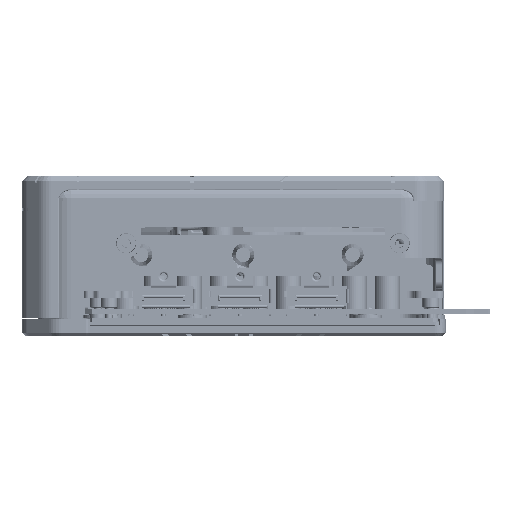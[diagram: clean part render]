
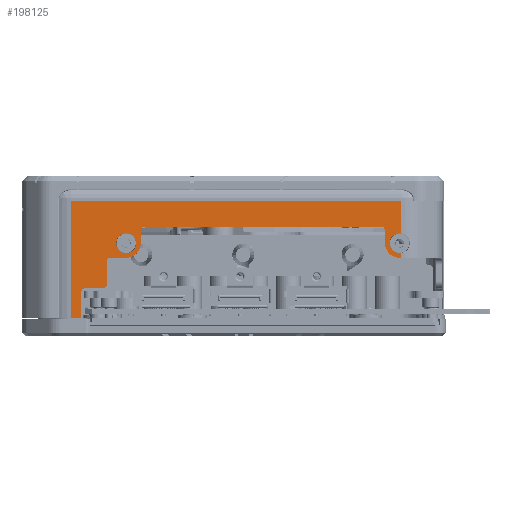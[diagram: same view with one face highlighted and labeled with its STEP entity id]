
A CAD part, left-side view. The second image highlights one B-rep face of the part: STEP entity #198125.
In plain terms, the highlighted planar face has unit normal (-1, 0, 0) as drawn and (0, -1, 0) by its records, which use the part's own axes.
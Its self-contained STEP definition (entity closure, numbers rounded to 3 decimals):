
#174732=DIRECTION('',(-1.,0.,0.));
#174733=VECTOR('',#174732,2.186);
#174734=CARTESIAN_POINT('',(-43.,-129.,-15.436));
#174735=LINE('',#174734,#174733);
#174736=CARTESIAN_POINT('',(44.85,-129.,
5.064));
#174737=DIRECTION('',(0.,-1.,0.));
#174738=DIRECTION('',(0.122,0.,0.992));
#174739=AXIS2_PLACEMENT_3D('',#174736,#174737,#174738);
#174741=CARTESIAN_POINT('',(44.85,-129.,
5.064));
#174742=DIRECTION('',(0.,-1.,0.));
#174743=DIRECTION('',(-0.122,0.,0.992));
#174744=AXIS2_PLACEMENT_3D('',#174741,#174742,#174743);
#174746=CARTESIAN_POINT('',(44.85,-129.,5.064));
#174747=DIRECTION('',(0.,1.,0.));
#174748=DIRECTION('',(0.,0.,-1.));
#174749=AXIS2_PLACEMENT_3D('',#174746,#174747,#174748);
#174751=CARTESIAN_POINT('',(39.85,-129.,8.564));
#174752=DIRECTION('',(0.,-1.,0.));
#174753=DIRECTION('',(1.,0.,0.));
#174754=AXIS2_PLACEMENT_3D('',#174751,#174752,#174753);
#174756=CARTESIAN_POINT('',(-25.15,-129.,8.564));
#174757=DIRECTION('',(0.,-1.,0.));
#174758=DIRECTION('',(0.,0.,1.));
#174759=AXIS2_PLACEMENT_3D('',#174756,#174757,#174758);
#174761=CARTESIAN_POINT('',(-30.15,-129.,5.064));
#174762=DIRECTION('',(0.,1.,0.));
#174763=DIRECTION('',(1.,0.,0.));
#174764=AXIS2_PLACEMENT_3D('',#174761,#174762,#174763);
#174766=CARTESIAN_POINT('',(-34.5,-129.,0.064));
#174767=DIRECTION('',(0.,-1.,0.));
#174768=DIRECTION('',(0.,0.,1.));
#174769=AXIS2_PLACEMENT_3D('',#174766,#174767,#174768);
#174771=CARTESIAN_POINT('',(-36.5,-129.,-6.336));
#174772=DIRECTION('',(0.,1.,0.));
#174773=DIRECTION('',(1.,0.,0.));
#174774=AXIS2_PLACEMENT_3D('',#174771,#174772,#174773);
#174776=CARTESIAN_POINT('',(-41.5,-129.,-8.336));
#174777=DIRECTION('',(0.,-1.,0.));
#174778=DIRECTION('',(0.,0.,1.));
#174779=AXIS2_PLACEMENT_3D('',#174776,#174777,#174778);
#174781=CARTESIAN_POINT('',(-43.,-129.,-14.936));
#174782=DIRECTION('',(0.,1.,0.));
#174783=DIRECTION('',(1.,0.,0.));
#174784=AXIS2_PLACEMENT_3D('',#174781,#174782,#174783);
#174786=CARTESIAN_POINT('',(-30.15,-129.,5.064));
#174787=DIRECTION('',(0.,-1.,0.));
#174788=DIRECTION('',(-1.,0.,0.));
#174789=AXIS2_PLACEMENT_3D('',#174786,#174787,#174788);
#174791=CARTESIAN_POINT('',(-30.15,-129.,5.064));
#174792=DIRECTION('',(0.,-1.,0.));
#174793=DIRECTION('',(1.,0.,0.));
#174794=AXIS2_PLACEMENT_3D('',#174791,#174792,#174793);
#174800=DIRECTION('',(0.,0.,-1.));
#174801=VECTOR('',#174800,32.);
#174802=CARTESIAN_POINT('',(-45.186,-129.,16.564));
#174803=LINE('',#174802,#174801);
#174863=DIRECTION('',(-1.,0.,0.));
#174864=VECTOR('',#174863,90.373);
#174865=CARTESIAN_POINT('',(45.186,-129.,16.564));
#174866=LINE('',#174865,#174864);
#178167=DIRECTION('',(1.,0.,0.));
#178168=VECTOR('',#178167,0.336);
#178169=CARTESIAN_POINT('',(44.85,-129.,1.064));
#178170=LINE('',#178169,#178168);
#178215=DIRECTION('',(0.,0.,-1.));
#178216=VECTOR('',#178215,3.5);
#178217=CARTESIAN_POINT('',(40.85,-129.,8.564));
#178218=LINE('',#178217,#178216);
#178237=DIRECTION('',(1.,0.,0.));
#178238=VECTOR('',#178237,65.);
#178239=CARTESIAN_POINT('',(-25.15,-129.,9.564));
#178240=LINE('',#178239,#178238);
#178259=DIRECTION('',(0.,0.,1.));
#178260=VECTOR('',#178259,3.5);
#178261=CARTESIAN_POINT('',(-26.15,-129.,5.064));
#178262=LINE('',#178261,#178260);
#178283=DIRECTION('',(1.,0.,0.));
#178284=VECTOR('',#178283,4.35);
#178285=CARTESIAN_POINT('',(-34.5,-129.,1.064));
#178286=LINE('',#178285,#178284);
#178305=DIRECTION('',(0.,0.,1.));
#178306=VECTOR('',#178305,6.4);
#178307=CARTESIAN_POINT('',(-35.5,-129.,-6.336));
#178308=LINE('',#178307,#178306);
#178327=DIRECTION('',(1.,0.,0.));
#178328=VECTOR('',#178327,5.);
#178329=CARTESIAN_POINT('',(-41.5,-129.,-7.336));
#178330=LINE('',#178329,#178328);
#178349=DIRECTION('',(0.,0.,1.));
#178350=VECTOR('',#178349,6.6);
#178351=CARTESIAN_POINT('',(-42.5,-129.,-14.936));
#178352=LINE('',#178351,#178350);
#178384=DIRECTION('',(0.,0.,1.));
#178385=VECTOR('',#178384,8.771);
#178386=CARTESIAN_POINT('',(45.186,-129.,
7.793));
#178387=LINE('',#178386,#178385);
#178392=DIRECTION('',(0.,0.,1.));
#178393=VECTOR('',#178392,1.271);
#178394=CARTESIAN_POINT('',(45.186,-129.,1.064));
#178395=LINE('',#178394,#178393);
#193014=CARTESIAN_POINT('',(45.186,-129.,16.564));
#193015=VERTEX_POINT('',#193014);
#193016=CARTESIAN_POINT('',(-45.186,-129.,16.564));
#193017=VERTEX_POINT('',#193016);
#193040=CARTESIAN_POINT('',(-45.186,-129.,-15.436));
#193041=VERTEX_POINT('',#193040);
#193042=CARTESIAN_POINT('',(-43.,-129.,-15.436));
#193043=VERTEX_POINT('',#193042);
#193131=CARTESIAN_POINT('',(-27.4,-129.,
5.064));
#193132=VERTEX_POINT('',#193131);
#193133=CARTESIAN_POINT('',(-32.9,-129.,
5.064));
#193134=VERTEX_POINT('',#193133);
#193135=CARTESIAN_POINT('',(45.186,-129.,
7.793));
#193136=VERTEX_POINT('',#193135);
#193137=CARTESIAN_POINT('',(44.514,-129.,
7.793));
#193138=VERTEX_POINT('',#193137);
#193139=CARTESIAN_POINT('',(45.186,-129.,
2.335));
#193140=VERTEX_POINT('',#193139);
#193141=CARTESIAN_POINT('',(45.186,-129.,1.064));
#193142=VERTEX_POINT('',#193141);
#193143=CARTESIAN_POINT('',(44.85,-129.,1.064));
#193144=VERTEX_POINT('',#193143);
#193145=CARTESIAN_POINT('',(40.85,-129.,5.064));
#193146=VERTEX_POINT('',#193145);
#193147=CARTESIAN_POINT('',(40.85,-129.,8.564));
#193148=VERTEX_POINT('',#193147);
#193149=CARTESIAN_POINT('',(39.85,-129.,9.564));
#193150=VERTEX_POINT('',#193149);
#193151=CARTESIAN_POINT('',(-25.15,-129.,9.564));
#193152=VERTEX_POINT('',#193151);
#193153=CARTESIAN_POINT('',(-26.15,-129.,8.564));
#193154=VERTEX_POINT('',#193153);
#193155=CARTESIAN_POINT('',(-26.15,-129.,5.064));
#193156=VERTEX_POINT('',#193155);
#193157=CARTESIAN_POINT('',(-30.15,-129.,1.064));
#193158=VERTEX_POINT('',#193157);
#193159=CARTESIAN_POINT('',(-34.5,-129.,1.064));
#193160=VERTEX_POINT('',#193159);
#193161=CARTESIAN_POINT('',(-35.5,-129.,0.064));
#193162=VERTEX_POINT('',#193161);
#193163=CARTESIAN_POINT('',(-35.5,-129.,-6.336));
#193164=VERTEX_POINT('',#193163);
#193165=CARTESIAN_POINT('',(-36.5,-129.,-7.336));
#193166=VERTEX_POINT('',#193165);
#193167=CARTESIAN_POINT('',(-41.5,-129.,-7.336));
#193168=VERTEX_POINT('',#193167);
#193169=CARTESIAN_POINT('',(-42.5,-129.,-8.336));
#193170=VERTEX_POINT('',#193169);
#193171=CARTESIAN_POINT('',(-42.5,-129.,-14.936));
#193172=VERTEX_POINT('',#193171);
#198068=CARTESIAN_POINT('',(-56.5,-129.,21.564));
#198069=DIRECTION('',(0.,-1.,0.));
#198070=DIRECTION('',(-1.,0.,0.));
#198071=AXIS2_PLACEMENT_3D('',#198068,#198069,#198070);
#198072=PLANE('',#198071);
#198073=ORIENTED_EDGE('',*,*,#197791,.T.);
#198075=ORIENTED_EDGE('',*,*,#198074,.F.);
#198077=ORIENTED_EDGE('',*,*,#198076,.F.);
#198079=ORIENTED_EDGE('',*,*,#198078,.F.);
#198081=ORIENTED_EDGE('',*,*,#198080,.T.);
#198082=ORIENTED_EDGE('',*,*,#198058,.T.);
#198084=ORIENTED_EDGE('',*,*,#198083,.F.);
#198086=ORIENTED_EDGE('',*,*,#198085,.F.);
#198088=ORIENTED_EDGE('',*,*,#198087,.T.);
#198090=ORIENTED_EDGE('',*,*,#198089,.F.);
#198092=ORIENTED_EDGE('',*,*,#198091,.T.);
#198094=ORIENTED_EDGE('',*,*,#198093,.F.);
#198096=ORIENTED_EDGE('',*,*,#198095,.T.);
#198098=ORIENTED_EDGE('',*,*,#198097,.F.);
#198100=ORIENTED_EDGE('',*,*,#198099,.T.);
#198102=ORIENTED_EDGE('',*,*,#198101,.F.);
#198104=ORIENTED_EDGE('',*,*,#198103,.T.);
#198106=ORIENTED_EDGE('',*,*,#198105,.F.);
#198108=ORIENTED_EDGE('',*,*,#198107,.T.);
#198110=ORIENTED_EDGE('',*,*,#198109,.F.);
#198112=ORIENTED_EDGE('',*,*,#198111,.T.);
#198114=ORIENTED_EDGE('',*,*,#198113,.F.);
#198116=ORIENTED_EDGE('',*,*,#198115,.T.);
#198117=EDGE_LOOP('',(#198073,#198075,#198077,#198079,#198081,#198082,#198084,
#198086,#198088,#198090,#198092,#198094,#198096,#198098,#198100,#198102,#198104,
#198106,#198108,#198110,#198112,#198114,#198116));
#198118=FACE_OUTER_BOUND('',#198117,.F.);
#198120=ORIENTED_EDGE('',*,*,#198119,.T.);
#198122=ORIENTED_EDGE('',*,*,#198121,.T.);
#198123=EDGE_LOOP('',(#198120,#198122));
#198124=FACE_BOUND('',#198123,.F.);
#174740=CIRCLE('',#174739,2.75);
#174745=CIRCLE('',#174744,2.75);
#174750=CIRCLE('',#174749,4.);
#174755=CIRCLE('',#174754,1.);
#174760=CIRCLE('',#174759,1.);
#174765=CIRCLE('',#174764,4.);
#174770=CIRCLE('',#174769,1.);
#174775=CIRCLE('',#174774,1.);
#174780=CIRCLE('',#174779,1.);
#174785=CIRCLE('',#174784,0.5);
#174790=CIRCLE('',#174789,2.75);
#174795=CIRCLE('',#174794,2.75);
#197791=EDGE_CURVE('',#193043,#193041,#174735,.T.);
#198058=EDGE_CURVE('',#193138,#193140,#174745,.T.);
#198074=EDGE_CURVE('',#193017,#193041,#174803,.T.);
#198076=EDGE_CURVE('',#193015,#193017,#174866,.T.);
#198078=EDGE_CURVE('',#193136,#193015,#178387,.T.);
#198080=EDGE_CURVE('',#193136,#193138,#174740,.T.);
#198083=EDGE_CURVE('',#193142,#193140,#178395,.T.);
#198085=EDGE_CURVE('',#193144,#193142,#178170,.T.);
#198087=EDGE_CURVE('',#193144,#193146,#174750,.T.);
#198089=EDGE_CURVE('',#193148,#193146,#178218,.T.);
#198091=EDGE_CURVE('',#193148,#193150,#174755,.T.);
#198093=EDGE_CURVE('',#193152,#193150,#178240,.T.);
#198095=EDGE_CURVE('',#193152,#193154,#174760,.T.);
#198097=EDGE_CURVE('',#193156,#193154,#178262,.T.);
#198099=EDGE_CURVE('',#193156,#193158,#174765,.T.);
#198101=EDGE_CURVE('',#193160,#193158,#178286,.T.);
#198103=EDGE_CURVE('',#193160,#193162,#174770,.T.);
#198105=EDGE_CURVE('',#193164,#193162,#178308,.T.);
#198107=EDGE_CURVE('',#193164,#193166,#174775,.T.);
#198109=EDGE_CURVE('',#193168,#193166,#178330,.T.);
#198111=EDGE_CURVE('',#193168,#193170,#174780,.T.);
#198113=EDGE_CURVE('',#193172,#193170,#178352,.T.);
#198115=EDGE_CURVE('',#193172,#193043,#174785,.T.);
#198119=EDGE_CURVE('',#193134,#193132,#174790,.T.);
#198121=EDGE_CURVE('',#193132,#193134,#174795,.T.);
#198125=ADVANCED_FACE('',(#198118,#198124),#198072,.T.);
